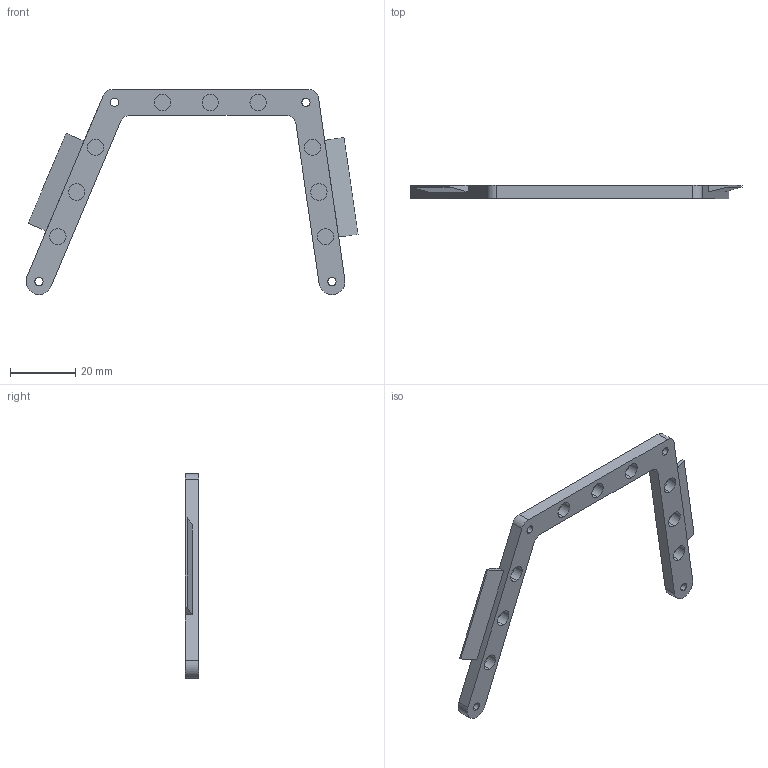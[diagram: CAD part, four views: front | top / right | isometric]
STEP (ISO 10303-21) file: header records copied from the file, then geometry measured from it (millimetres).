
FILE_DESCRIPTION (( 'STEP AP214' ), '1' );
FILE_NAME ('Board Mount.STEP', '2026-08-10T21:56:43', ( '' ), ( '' ), 'SwSTEP 2.0', 'SolidWorks 2024', '' );
FILE_SCHEMA (( 'AUTOMOTIVE_DESIGN' ));
Length unit declared in the file: millimetre
Products named in the file (1): Board Mount
Bounding box: 101.98 x 4 x 63 mm (x, y, z)
Volume: 5567.2 mm3; surface area: 5580 mm2
Topology: 1 solids, 1 shells, 67 faces, 160 edges, 104 vertices
Faces by surface type: cylinder 34, plane 25, cone 8
Entity records: 2005 total; most frequent: DIRECTION 372, CARTESIAN_POINT 332, ORIENTED_EDGE 320, EDGE_CURVE 160, AXIS2_PLACEMENT_3D 144, VERTEX_POINT 104, EDGE_LOOP 84, LINE 84
